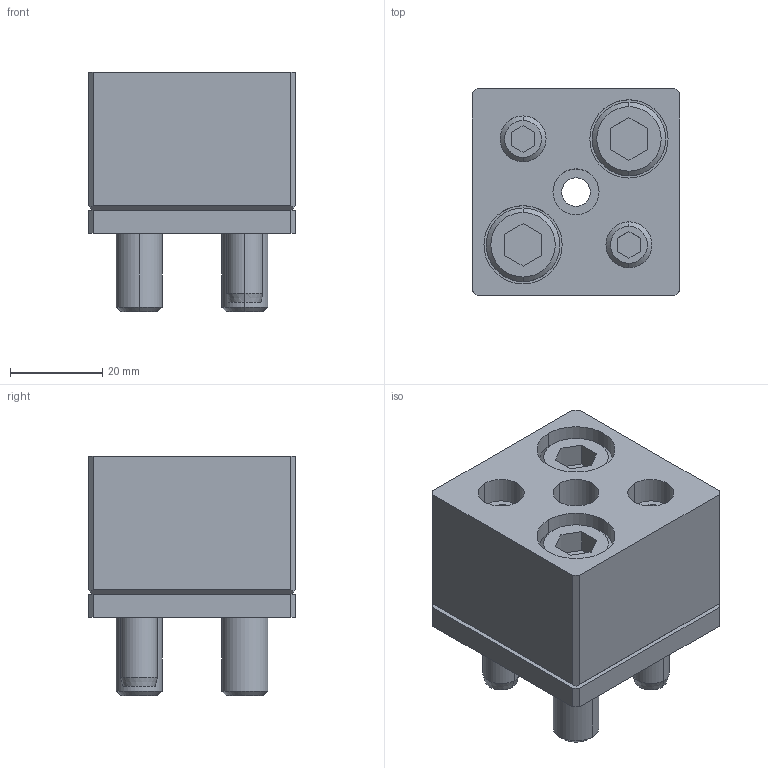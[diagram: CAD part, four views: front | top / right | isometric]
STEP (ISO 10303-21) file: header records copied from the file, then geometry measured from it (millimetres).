
FILE_DESCRIPTION(/* description */ (''),/* implementation_level */ '2;1');
FILE_NAME(/* name */ '3d_sr-ap10_03061_r00.stp',/* time_stamp */ '2011-01-10T14:10:00+09:00',/* author */ ('MISUMI'),/* organization */ (''),/* preprocessor_version */ 'ST-DEVELOPER v11',/* originating_system */ 'UGS - NX 5.0',/* authorisation */ '');
FILE_SCHEMA (('CONFIG_CONTROL_DESIGN'));
Length unit declared in the file: millimetre
Products named in the file (1): 3d_sr-ap10_03061_r00
Bounding box: 45 x 45 x 52 mm (x, y, z)
Volume: 66754.8 mm3; surface area: 26144.2 mm2
Topology: 8 solids, 8 shells, 159 faces, 358 edges, 230 vertices
Faces by surface type: plane 77, cylinder 56, cone 26
Entity records: 4588 total; most frequent: DIRECTION 812, CARTESIAN_POINT 790, ORIENTED_EDGE 716, EDGE_CURVE 358, AXIS2_PLACEMENT_3D 298, VERTEX_POINT 230, LINE 216, VECTOR 216
